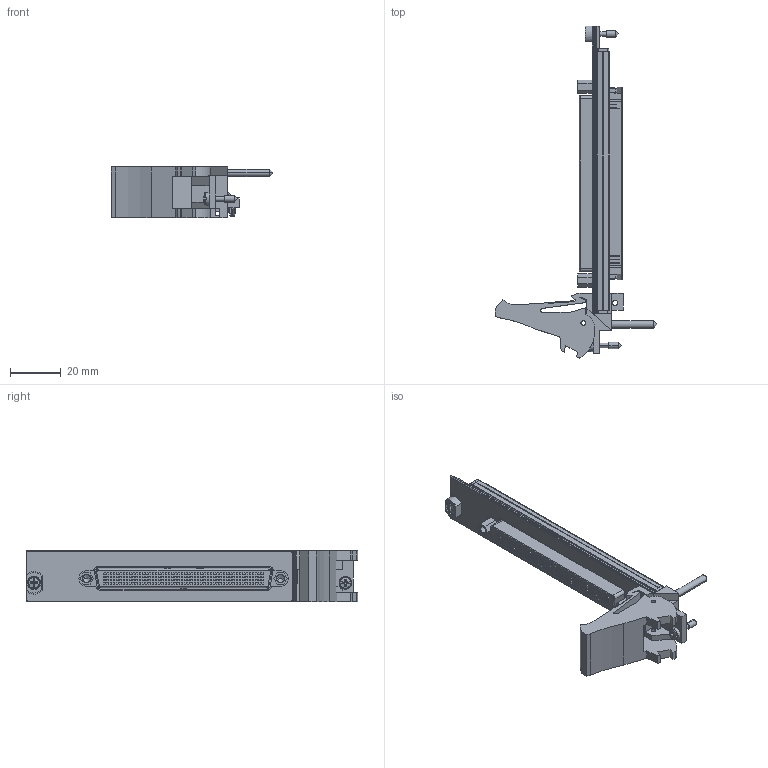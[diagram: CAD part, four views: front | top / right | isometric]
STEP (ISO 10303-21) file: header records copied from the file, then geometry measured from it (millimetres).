
FILE_DESCRIPTION((''),'2;1');
FILE_NAME('CU_PXIE-2569','2009-11-06T',('jjorden'),(''),'PRO/ENGINEER BY PARAMETRIC TECHNOLOGY CORPORATION, 2006080','PRO/ENGINEER BY PARAMETRIC TECHNOLOGY CORPORATION, 2006080','');
FILE_SCHEMA(('CONFIG_CONTROL_DESIGN'));
Products named in the file (1): CU_PXIE-2569
Bounding box: 63.53 x 130.5 x 20.31 mm (x, y, z)
Volume: 18836.8 mm3; surface area: 23344.3 mm2
Topology: 2 solids, 2 shells, 2306 faces, 6116 edges, 4042 vertices
Faces by surface type: plane 2144, cylinder 124, cone 26, torus 8, sphere 4
Entity records: 70427 total; most frequent: CARTESIAN_POINT 12671, ORIENTED_EDGE 12216, DIRECTION 11001, EDGE_CURVE 6108, VECTOR 5773, LINE 5773, VERTEX_POINT 4042, EDGE_LOOP 2616
